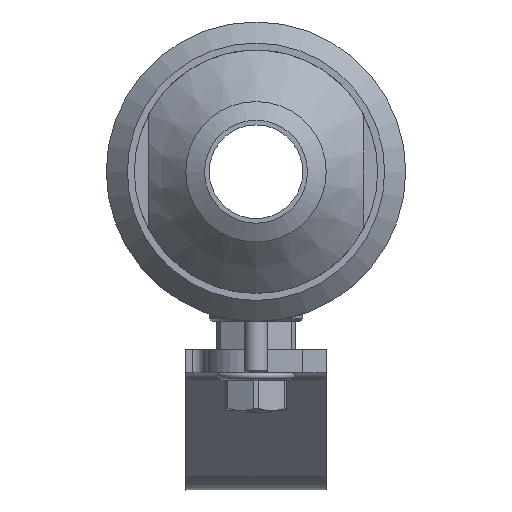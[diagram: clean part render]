
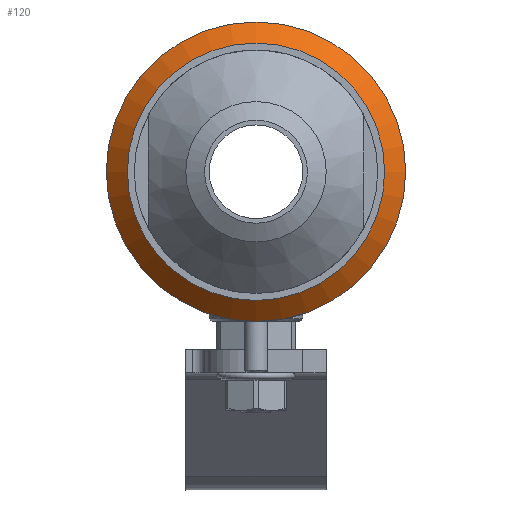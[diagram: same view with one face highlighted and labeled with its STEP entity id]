
A CAD part, left-side view. The second image highlights one B-rep face of the part: STEP entity #120.
In plain terms, the highlighted conical face has half-angle 45 degrees and reference radius 29.75 mm.
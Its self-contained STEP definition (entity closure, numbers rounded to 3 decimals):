
#120=ADVANCED_FACE('',(#1033),#1035,.T.);
#1033=FACE_OUTER_BOUND('',#1034,.T.);
#1034=EDGE_LOOP('',(#1945,#1946,#1947,#1948));
#1035=CONICAL_SURFACE('',#1036,29.75,0.785);
#1036=AXIS2_PLACEMENT_3D('',#1037,#1038,#1039);
#1037=CARTESIAN_POINT('',(-30.25,0.,0.));
#1038=DIRECTION('',(1.,0.,0.));
#1039=DIRECTION('',(0.,1.,0.));
#1945=ORIENTED_EDGE('',*,*,#2998,.T.);
#1946=ORIENTED_EDGE('',*,*,#2991,.T.);
#1947=ORIENTED_EDGE('',*,*,#2998,.F.);
#1948=ORIENTED_EDGE('',*,*,#2999,.F.);
#2991=EDGE_CURVE('',#3281,#3281,#3283,.T.);
#2998=EDGE_CURVE('',#3294,#3281,#3295,.T.);
#2999=EDGE_CURVE('',#3294,#3294,#3296,.T.);
#3281=VERTEX_POINT('',#4606);
#3283=CIRCLE('',#4610,32.);
#3294=VERTEX_POINT('',#4640);
#3295=LINE('',#4641,#4642);
#3296=CIRCLE('',#4644,27.5);
#4606=CARTESIAN_POINT('',(-28.,-32.,0.));
#4610=AXIS2_PLACEMENT_3D('',#4611,#4612,#4613);
#4611=CARTESIAN_POINT('',(-28.,0.,0.));
#4612=DIRECTION('',(-1.,0.,0.));
#4613=DIRECTION('',(0.,-1.,0.));
#4640=CARTESIAN_POINT('',(-32.5,-27.5,0.));
#4641=CARTESIAN_POINT('',(-32.5,-27.5,0.));
#4642=VECTOR('',#4643,1.);
#4643=DIRECTION('',(0.707,-0.707,0.));
#4644=AXIS2_PLACEMENT_3D('',#4645,#4646,#4647);
#4645=CARTESIAN_POINT('',(-32.5,0.,0.));
#4646=DIRECTION('',(-1.,0.,0.));
#4647=DIRECTION('',(0.,-1.,0.));
